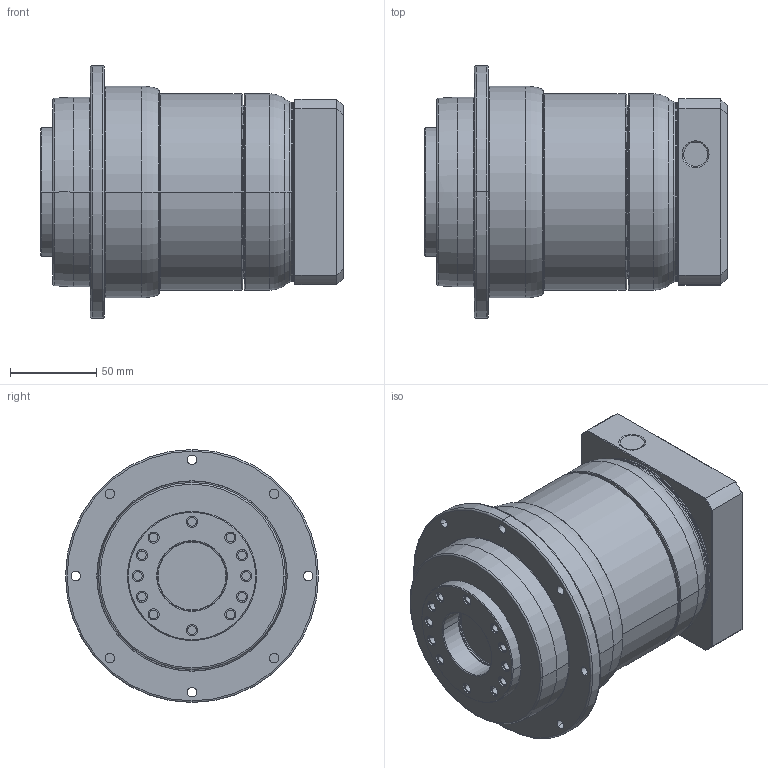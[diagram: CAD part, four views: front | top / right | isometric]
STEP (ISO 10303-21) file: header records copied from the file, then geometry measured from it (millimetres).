
FILE_DESCRIPTION((''),'2;1');
FILE_NAME('PD110_2ST_28-P0411600101_ASM','2016-06-04T',('d01943'),(''),'PRO/ENGINEER BY PARAMETRIC TECHNOLOGY CORPORATION, 2008410','PRO/ENGINEER BY PARAMETRIC TECHNOLOGY CORPORATION, 2008410','');
FILE_SCHEMA(('CONFIG_CONTROL_DESIGN'));
Length unit declared in the file: millimetre
Products named in the file (8): P1355400001; P0367400001; P0275400001; P1324400201; P0411600101; P0503600008; P0941402001; PD110_2ST_28-P0411600101_ASM
Assembly tree (7 placements, depth 2):
  PD110_2ST_28-P0411600101_ASM
    P1355400001
    P0367400001
    P0275400001
    P1324400201
    P0411600101
    P0503600008
    P0941402001
Bounding box: 175.93 x 147 x 147 mm (x, y, z)
Volume: 1706148.2 mm3; surface area: 239501.6 mm2
Topology: 7 solids, 8 shells, 431 faces, 999 edges, 604 vertices
Faces by surface type: cylinder 172, cone 94, torus 76, plane 75, bspline 14
Entity records: 16916 total; most frequent: CARTESIAN_POINT 6703, DIRECTION 2297, ORIENTED_EDGE 1966, AXIS2_PLACEMENT_3D 991, EDGE_CURVE 983, VERTEX_POINT 604, CIRCLE 559, EDGE_LOOP 525
